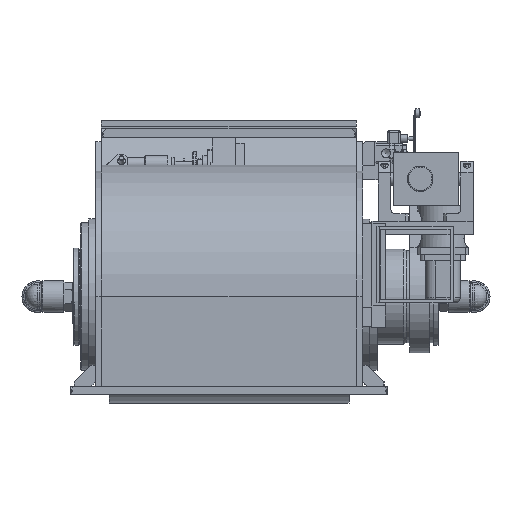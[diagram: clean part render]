
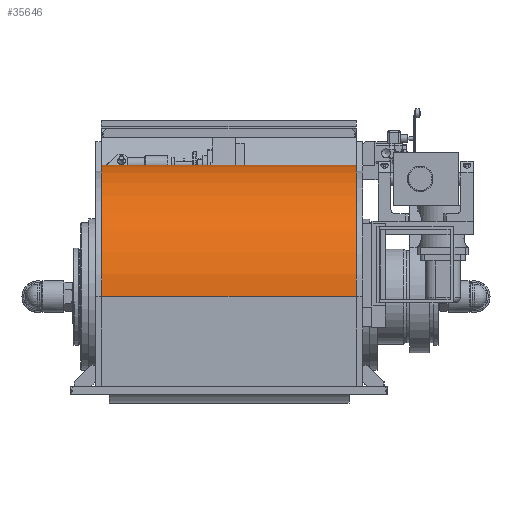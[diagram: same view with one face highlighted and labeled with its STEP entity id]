
A CAD part, front view. The second image highlights one B-rep face of the part: STEP entity #35646.
In plain terms, the highlighted cylindrical face has radius 263 mm (diameter 526 mm), a partial arc.
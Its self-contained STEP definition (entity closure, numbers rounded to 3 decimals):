
#3362=FACE_OUTER_BOUND('',#5555,.T.);
#5555=EDGE_LOOP('',(#27358,#27359,#27360,#27361));
#8058=LINE('',#56184,#11136);
#8059=LINE('',#56188,#11137);
#11136=VECTOR('',#44865,10.);
#11137=VECTOR('',#44868,10.);
#13682=CIRCLE('',#38456,263.);
#13683=CIRCLE('',#38457,263.);
#15801=VERTEX_POINT('',#56182);
#15802=VERTEX_POINT('',#56183);
#15803=VERTEX_POINT('',#56185);
#15804=VERTEX_POINT('',#56187);
#19905=EDGE_CURVE('',#15801,#15802,#8058,.T.);
#19906=EDGE_CURVE('',#15803,#15801,#13682,.T.);
#19907=EDGE_CURVE('',#15803,#15804,#8059,.T.);
#19908=EDGE_CURVE('',#15802,#15804,#13683,.T.);
#27358=ORIENTED_EDGE('',*,*,#19905,.F.);
#27359=ORIENTED_EDGE('',*,*,#19906,.F.);
#27360=ORIENTED_EDGE('',*,*,#19907,.T.);
#27361=ORIENTED_EDGE('',*,*,#19908,.F.);
#32673=CYLINDRICAL_SURFACE('',#38455,263.);
#35646=ADVANCED_FACE('',(#3362),#32673,.T.);
#38455=AXIS2_PLACEMENT_3D('',#56181,#44863,#44864);
#38456=AXIS2_PLACEMENT_3D('',#56186,#44866,#44867);
#38457=AXIS2_PLACEMENT_3D('',#56189,#44869,#44870);
#44863=DIRECTION('center_axis',(-1.,0.,0.));
#44864=DIRECTION('ref_axis',(0.,-1.,0.));
#44865=DIRECTION('',(1.,0.,0.));
#44866=DIRECTION('center_axis',(-1.,0.,0.));
#44867=DIRECTION('ref_axis',(0.,-1.,0.));
#44868=DIRECTION('',(1.,0.,0.));
#44869=DIRECTION('center_axis',(1.,0.,0.));
#44870=DIRECTION('ref_axis',(0.,0.,
1.));
#56181=CARTESIAN_POINT('Origin',(377.081,-27.37,190.));
#56182=CARTESIAN_POINT('',(122.081,-27.37,453.));
#56183=CARTESIAN_POINT('',(632.081,-27.37,453.));
#56184=CARTESIAN_POINT('',(377.081,-27.37,453.));
#56185=CARTESIAN_POINT('',(122.081,-290.37,190.));
#56186=CARTESIAN_POINT('Origin',(122.081,-27.37,190.));
#56187=CARTESIAN_POINT('',(632.081,-290.37,190.));
#56188=CARTESIAN_POINT('',(377.081,-290.37,190.));
#56189=CARTESIAN_POINT('Origin',(632.081,-27.37,190.));
